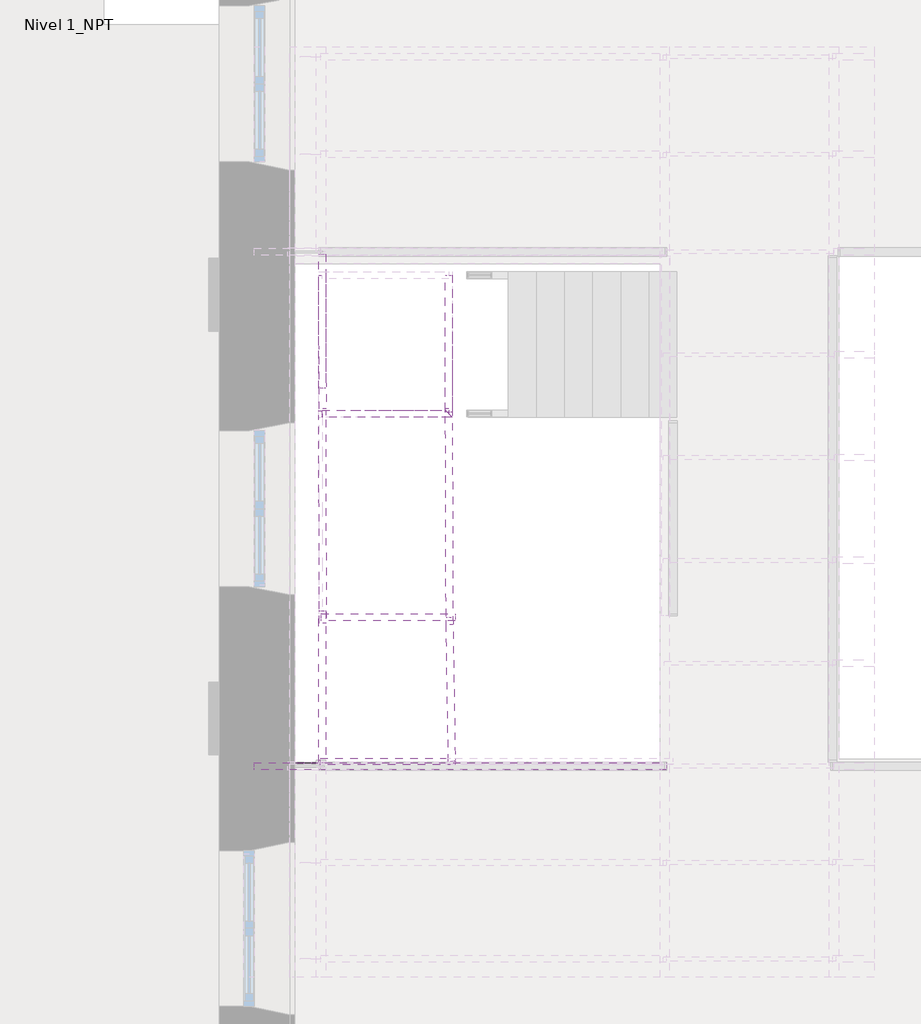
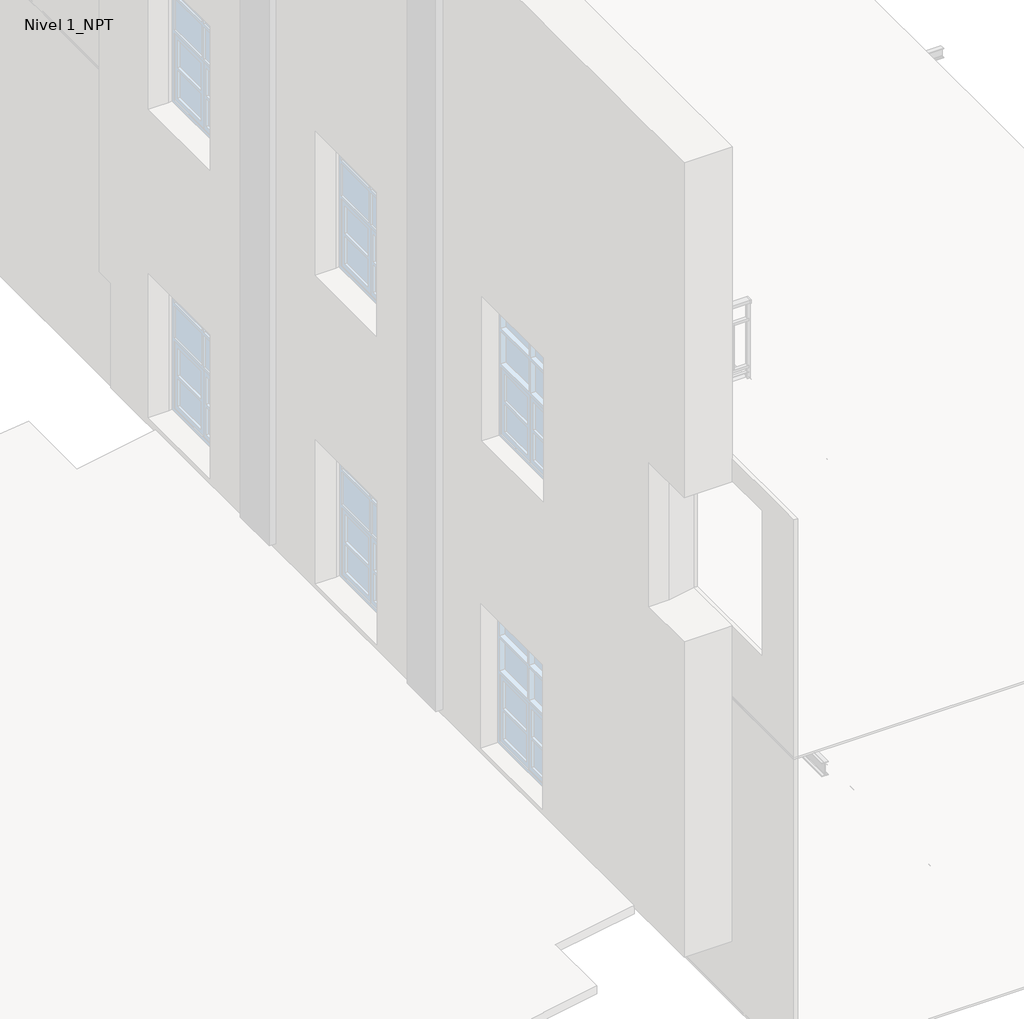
# One storey, part 2 of 6: 14 beams.
"""IFC4 building model written with IfcOpenShell, lengths in millimetres."""

from ifc_helpers import new_model, si_unit, point, frame, frame_2d, origin, place, context, project, spatial, polyline, circle_curve, ellipse_curve, trimmed, segment, composite_curve, outline, extrude, transform, mapped, element, save
from ifc_brep_helpers import plane_surface, cylinder_surface, revolved_surface, advanced_brep
from components import ipn_140_bcc21dc4, ipn_140_844413e8, ipn_140_f65621e1

model = new_model("IFC4")

# Units and contexts
model_context = context("Model", 3, world=origin())
ifc_project = project(units=[si_unit("LENGTHUNIT", "METRE", prefix="MILLI")], contexts=[model_context])

# Site, building, storey
site = spatial("IfcSite", under=ifc_project)
building = spatial("IfcBuilding", under=site)
storey = spatial("IfcBuildingStorey", under=building, Name="Nivel 1_NPT", Elevation=4940.0)

# Beams
placement = place(None, origin())
element("IfcBeam", 1, ObjectType="IPN - Secciones en I con alas cónicas : IPN 140", at=placement, inside=storey, context=model_context, shape_type="SweptSolid", body=[
    extrude(outline(composite_curve([segment(polyline([(7929.4125, 6380.8126262), (7929.4125, 6314.8126262), (7926.0796583, 6314.8126262)]), True, "CONTINUOUS"), segment(trimmed(circle_curve(frame_2d((7926.0796583, 6318.2126262)), 3.4), [point((7926.0796583, 6314.8126262))], [point((7922.7124964, 6317.7412235))], False, "CARTESIAN"), True, "CONTINUOUS"), segment(polyline([(7922.7124964, 6317.7412235), (7919.588859, 6340.0529189)]), True, "CONTINUOUS"), segment(trimmed(circle_curve(frame_2d((7913.9439111, 6339.2626262)), 5.7), [point((7919.588859, 6340.0529189))], [point((7913.9439111, 6344.9626262))], True, "CARTESIAN"), True, "CONTINUOUS"), segment(polyline([(7913.9439111, 6344.9626262), (7804.8810889, 6344.9626262)]), True, "CONTINUOUS"), segment(trimmed(circle_curve(frame_2d((7804.8810889, 6339.2626262)), 5.7), [point((7804.8810889, 6344.9626262))], [point((7799.236141, 6340.0529189))], True, "CARTESIAN"), True, "CONTINUOUS"), segment(polyline([(7799.236141, 6340.0529189), (7796.1125036, 6317.7412235)]), True, "CONTINUOUS"), segment(trimmed(circle_curve(frame_2d((7792.7453417, 6318.2126262)), 3.4), [point((7796.1125036, 6317.7412235))], [point((7792.7453417, 6314.8126262))], False, "CARTESIAN"), True, "CONTINUOUS"), segment(polyline([(7792.7453417, 6314.8126262), (7789.4125, 6314.8126262), (7789.4125, 6380.8126262), (7792.7453417, 6380.8126262)]), True, "CONTINUOUS"), segment(trimmed(circle_curve(frame_2d((7792.7453417, 6377.4126262)), 3.4), [point((7792.7453417, 6380.8126262))], [point((7796.1125036, 6377.8840289))], False, "CARTESIAN"), True, "CONTINUOUS"), segment(polyline([(7796.1125036, 6377.8840289), (7799.236141, 6355.5723335)]), True, "CONTINUOUS"), segment(trimmed(circle_curve(frame_2d((7804.8810889, 6356.3626262)), 5.7), [point((7799.236141, 6355.5723335))], [point((7804.8810889, 6350.6626262))], True, "CARTESIAN"), True, "CONTINUOUS"), segment(polyline([(7804.8810889, 6350.6626262), (7913.9439111, 6350.6626262)]), True, "CONTINUOUS"), segment(trimmed(circle_curve(frame_2d((7913.9439111, 6356.3626262)), 5.7), [point((7913.9439111, 6350.6626262))], [point((7919.588859, 6355.5723335))], True, "CARTESIAN"), True, "CONTINUOUS"), segment(polyline([(7919.588859, 6355.5723335), (7922.7124964, 6377.8840289)]), True, "CONTINUOUS"), segment(trimmed(circle_curve(frame_2d((7926.0796583, 6377.4126262)), 3.4), [point((7922.7124964, 6377.8840289))], [point((7926.0796583, 6380.8126262))], False, "CARTESIAN"), True, "CONTINUOUS"), segment(polyline([(7926.0796583, 6380.8126262), (7929.4125, 6380.8126262)]), True, "CONTINUOUS")], self_intersect=False)), frame((0.0, 1519.7530508, 0.0), z_axis=(0.0, 1.0, 0.0), x_axis=(0.0, 0.0, 1.0)), (0.0, 0.0, 1.0), 1458.9022465),
])
element("IfcBeam", 2, ObjectType="IPN - Secciones en I con alas cónicas : IPN 140", at=placement, inside=storey, context=model_context, shape_type="SweptSolid", body=[
    extrude(outline(composite_curve([segment(polyline([(1496.342606, 7929.4125), (1562.342606, 7929.4125), (1562.342606, 7926.0796583)]), True, "CONTINUOUS"), segment(trimmed(circle_curve(frame_2d((1558.942606, 7926.0796583)), 3.4), [point((1562.342606, 7926.0796583))], [point((1559.4140086, 7922.7124964))], False, "CARTESIAN"), True, "CONTINUOUS"), segment(polyline([(1559.4140086, 7922.7124964), (1537.1023132, 7919.588859)]), True, "CONTINUOUS"), segment(trimmed(circle_curve(frame_2d((1537.892606, 7913.9439111)), 5.7), [point((1537.1023132, 7919.588859))], [point((1532.192606, 7913.9439111))], True, "CARTESIAN"), True, "CONTINUOUS"), segment(polyline([(1532.192606, 7913.9439111), (1532.192606, 7804.8810889)]), True, "CONTINUOUS"), segment(trimmed(circle_curve(frame_2d((1537.892606, 7804.8810889)), 5.7), [point((1532.192606, 7804.8810889))], [point((1537.1023132, 7799.236141))], True, "CARTESIAN"), True, "CONTINUOUS"), segment(polyline([(1537.1023132, 7799.236141), (1559.4140086, 7796.1125036)]), True, "CONTINUOUS"), segment(trimmed(circle_curve(frame_2d((1558.942606, 7792.7453417)), 3.4), [point((1559.4140086, 7796.1125036))], [point((1562.342606, 7792.7453417))], False, "CARTESIAN"), True, "CONTINUOUS"), segment(polyline([(1562.342606, 7792.7453417), (1562.342606, 7789.4125), (1496.342606, 7789.4125), (1496.342606, 7792.7453417)]), True, "CONTINUOUS"), segment(trimmed(circle_curve(frame_2d((1499.742606, 7792.7453417)), 3.4), [point((1496.342606, 7792.7453417))], [point((1499.2712033, 7796.1125036))], False, "CARTESIAN"), True, "CONTINUOUS"), segment(polyline([(1499.2712033, 7796.1125036), (1521.5828987, 7799.236141)]), True, "CONTINUOUS"), segment(trimmed(circle_curve(frame_2d((1520.792606, 7804.8810889)), 5.7), [point((1521.5828987, 7799.236141))], [point((1526.492606, 7804.8810889))], True, "CARTESIAN"), True, "CONTINUOUS"), segment(polyline([(1526.492606, 7804.8810889), (1526.492606, 7913.9439111)]), True, "CONTINUOUS"), segment(trimmed(circle_curve(frame_2d((1520.792606, 7913.9439111)), 5.7), [point((1526.492606, 7913.9439111))], [point((1521.5828987, 7919.588859))], True, "CARTESIAN"), True, "CONTINUOUS"), segment(polyline([(1521.5828987, 7919.588859), (1499.2712033, 7922.7124964)]), True, "CONTINUOUS"), segment(trimmed(circle_curve(frame_2d((1499.742606, 7926.0796583)), 3.4), [point((1499.2712033, 7922.7124964))], [point((1496.342606, 7926.0796583))], False, "CARTESIAN"), True, "CONTINUOUS"), segment(polyline([(1496.342606, 7926.0796583), (1496.342606, 7929.4125)]), True, "CONTINUOUS")], self_intersect=False)), frame((6328.8126262, 0.0, 0.0), z_axis=(1.0, 0.0, 0.0), x_axis=(0.0, 1.0, 0.0)), (0.0, 0.0, 1.0), 1299.8627985),
])
element("IfcBeam", 3, ObjectType="IPN - Secciones en I con alas cónicas : IPN 140", at=placement, inside=storey, context=model_context, shape_type="AdvancedBrep", body=[
    advanced_brep(
    [(7533.5983807, 6211.4911558, 6599.65), (7599.5983807, 6211.4911558, 6599.65), (7599.5983807, 6211.4911558, 6596.3171583), (7596.6697834, 6211.4911558, 6592.9499964), (7574.358088, 6211.4911558, 6589.826359), (7569.4483807, 6211.4911558, 6584.1814111), (7569.4483807, 6211.4911558, 6475.1185889), (7574.358088, 6211.4911558, 6469.473641), (7596.6697834, 6211.4911558, 6466.3500036), (7599.5983807, 6211.4911558, 6462.9828417), (7599.5983807, 6211.4911558, 6459.65), (7533.5983807, 6211.4911558, 6459.65), (7533.5983807, 6211.4911558, 6462.9828417), (7536.526978, 6211.4911558, 6466.3500036), (7558.8386734, 6211.4911558, 6469.473641), (7563.7483807, 6211.4911558, 6475.1185889), (7563.7483807, 6211.4911558, 6584.1814111), (7558.8386734, 6211.4911558, 6589.826359), (7536.526978, 6211.4911558, 6592.9499964), (7533.5983807, 6211.4911558, 6596.3171583), (7533.5983807, 4910.3572273, 6596.3171583), (7533.5983807, 4910.3572273, 6599.65), (7536.526978, 4907.42863, 6592.9499964), (7558.8386734, 4885.1169346, 6589.826359), (7563.7483807, 4880.2072273, 6584.1814111), (7563.7483807, 4880.2072273, 6475.1185889), (7558.8386734, 4885.1169346, 6469.473641), (7536.526978, 4907.42863, 6466.3500036), (7533.5983807, 4910.3572273, 6462.9828417), (7533.5983807, 4910.3572273, 6459.65), (7599.5983807, 4844.3572273, 6459.65), (7599.5983807, 4844.3572273, 6462.9828417), (7596.6697834, 4847.2858246, 6466.3500036), (7574.358088, 4869.59752, 6469.473641), (7569.4483807, 4874.5072273, 6475.1185889), (7569.4483807, 4874.5072273, 6584.1814111), (7574.358088, 4869.59752, 6589.826359), (7596.6697834, 4847.2858246, 6592.9499964), (7599.5983807, 4844.3572273, 6596.3171583), (7599.5983807, 4844.3572273, 6599.65)],
    [
        (0, 1),
        (1, 2),
        (2, 3, circle_curve(frame((7596.1983807, 6211.4911558, 6596.3171583), z_axis=(0.0, 1.0, 0.0), x_axis=(-1.0, 0.0, 0.0)), 3.4)),
        (3, 4),
        (4, 5, circle_curve(frame((7575.1483807, 6211.4911558, 6584.1814111), z_axis=(0.0, -1.0, 0.0), x_axis=(-1.0, 0.0, 0.0)), 5.7)),
        (5, 6),
        (6, 7, circle_curve(frame((7575.1483807, 6211.4911558, 6475.1185889), z_axis=(0.0, -1.0, 0.0), x_axis=(-1.0, 0.0, 0.0)), 5.7)),
        (7, 8),
        (8, 9, circle_curve(frame((7596.1983807, 6211.4911558, 6462.9828417), z_axis=(0.0, 1.0, 0.0), x_axis=(-1.0, 0.0, 0.0)), 3.4)),
        (9, 10),
        (10, 11),
        (11, 12),
        (12, 13, circle_curve(frame((7536.9983807, 6211.4911558, 6462.9828417), z_axis=(0.0, 1.0, 0.0), x_axis=(-1.0, 0.0, 0.0)), 3.4)),
        (13, 14),
        (14, 15, circle_curve(frame((7558.0483807, 6211.4911558, 6475.1185889), z_axis=(0.0, -1.0, 0.0), x_axis=(-1.0, 0.0, 0.0)), 5.7)),
        (15, 16),
        (16, 17, circle_curve(frame((7558.0483807, 6211.4911558, 6584.1814111), z_axis=(0.0, -1.0, 0.0), x_axis=(-1.0, 0.0, 0.0)), 5.7)),
        (17, 18),
        (18, 19, circle_curve(frame((7536.9983807, 6211.4911558, 6596.3171583), z_axis=(0.0, 1.0, 0.0), x_axis=(-1.0, 0.0, 0.0)), 3.4)),
        (19, 0),
        (19, 20),
        (20, 21),
        (21, 0),
        (18, 22),
        (22, 20, ellipse_curve(frame((7536.9983807, 4906.9572273, 6596.3171583), z_axis=(0.7071067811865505, 0.7071067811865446, 0.0), x_axis=(-0.7071067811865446, 0.7071067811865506, 0.0)), 4.8083261, 3.4)),
        (17, 23),
        (23, 22),
        (16, 24),
        (24, 23, ellipse_curve(frame((7558.0483807, 4885.9072273, 6584.1814111), z_axis=(-0.7071067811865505, -0.7071067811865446, 0.0), x_axis=(0.7071067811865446, -0.7071067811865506, 0.0)), 8.0610173, 5.7)),
        (15, 25),
        (25, 24),
        (14, 26),
        (26, 25, ellipse_curve(frame((7558.0483807, 4885.9072273, 6475.1185889), z_axis=(-0.7071067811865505, -0.7071067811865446, 0.0), x_axis=(0.7071067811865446, -0.7071067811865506, 0.0)), 8.0610173, 5.7)),
        (13, 27),
        (27, 26),
        (12, 28),
        (28, 27, ellipse_curve(frame((7536.9983807, 4906.9572273, 6462.9828417), z_axis=(0.7071067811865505, 0.7071067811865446, 0.0), x_axis=(-0.7071067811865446, 0.7071067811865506, 0.0)), 4.8083261, 3.4)),
        (11, 29),
        (29, 28),
        (10, 30),
        (30, 29),
        (9, 31),
        (31, 30),
        (8, 32),
        (32, 31, ellipse_curve(frame((7596.1983807, 4847.7572273, 6462.9828417), z_axis=(0.7071067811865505, 0.7071067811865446, 0.0), x_axis=(-0.7071067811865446, 0.7071067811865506, 0.0)), 4.8083261, 3.4)),
        (7, 33),
        (33, 32),
        (6, 34),
        (34, 33, ellipse_curve(frame((7575.1483807, 4868.8072273, 6475.1185889), z_axis=(-0.7071067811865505, -0.7071067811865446, 0.0), x_axis=(0.7071067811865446, -0.7071067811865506, 0.0)), 8.0610173, 5.7)),
        (5, 35),
        (35, 34),
        (4, 36),
        (36, 35, ellipse_curve(frame((7575.1483807, 4868.8072273, 6584.1814111), z_axis=(-0.7071067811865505, -0.7071067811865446, 0.0), x_axis=(0.7071067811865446, -0.7071067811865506, 0.0)), 8.0610173, 5.7)),
        (3, 37),
        (37, 36),
        (2, 38),
        (38, 37, ellipse_curve(frame((7596.1983807, 4847.7572273, 6596.3171583), z_axis=(0.7071067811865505, 0.7071067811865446, 0.0), x_axis=(-0.7071067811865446, 0.7071067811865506, 0.0)), 4.8083261, 3.4)),
        (1, 39),
        (39, 38),
        (21, 39),
    ],
    [
        plane_surface(frame((7566.5983807, 6211.4911558, 6529.65), z_axis=(0.0, 1.0, 0.0), x_axis=(0.0, 0.0, 1.0))),
        plane_surface(frame((7533.5983807, 6211.4911558, 6599.65), z_axis=(-1.0, 0.0, 0.0), x_axis=(0.0, -1.0, 0.0))),
        cylinder_surface(frame((7536.9983807, 6211.4911558, 6596.3171583), z_axis=(0.0, 1.0, 0.0), x_axis=(-1.0, 0.0, 0.0)), 3.4),
        plane_surface(frame((7550.0983807, 6211.4911558, 6591.05), z_axis=(-0.13864784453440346, 0.0, -0.9903417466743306), x_axis=(0.0, -1.0, 0.0))),
        revolved_surface(polyline([(7552.3483807, 4880.2072273, 6584.1814111), (7552.3483807, 6211.4911558, 6584.1814111)]), (7558.0483807, 6211.4911558, 6584.1814111), (0.0, -1.0, 0.0)),
        plane_surface(frame((7563.7483807, 6211.4911558, 6584.1814111), z_axis=(-1.0, 0.0, 0.0), x_axis=(0.0, -1.0, 0.0))),
        revolved_surface(polyline([(7552.3483807, 4880.2072273, 6475.1185889), (7552.3483807, 6211.4911558, 6475.1185889)]), (7558.0483807, 6211.4911558, 6475.1185889), (0.0, -1.0, 0.0)),
        plane_surface(frame((7550.0983807, 6211.4911558, 6468.25), z_axis=(-0.1386478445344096, 0.0, 0.9903417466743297), x_axis=(0.0, -1.0, 0.0))),
        cylinder_surface(frame((7536.9983807, 6211.4911558, 6462.9828417), z_axis=(0.0, 1.0, 0.0), x_axis=(-1.0, 0.0, 0.0)), 3.4),
        plane_surface(frame((7533.5983807, 6211.4911558, 6462.9828417), z_axis=(-1.0, 0.0, 0.0), x_axis=(0.0, -1.0, 0.0))),
        plane_surface(frame((7533.5983807, 6211.4911558, 6459.65), z_axis=(0.0, 0.0, -1.0), x_axis=(0.0, -1.0, 0.0))),
        plane_surface(frame((7599.5983807, 6211.4911558, 6459.65), z_axis=(1.0, 0.0, 0.0), x_axis=(0.0, -1.0, 0.0))),
        cylinder_surface(frame((7596.1983807, 6211.4911558, 6462.9828417), z_axis=(0.0, 1.0, 0.0), x_axis=(-1.0, 0.0, 0.0)), 3.4),
        plane_surface(frame((7583.0983807, 6211.4911558, 6468.25), z_axis=(0.13864784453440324, 0.0, 0.9903417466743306), x_axis=(0.0, -1.0, 0.0))),
        revolved_surface(polyline([(7569.448380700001, 4863.107227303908, 6475.1185889), (7569.448380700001, 6211.4911558, 6475.1185889)]), (7575.1483807, 6211.4911558, 6475.1185889), (0.0, -1.0, 0.0)),
        plane_surface(frame((7569.4483807, 6211.4911558, 6475.1185889), z_axis=(1.0, 0.0, 0.0), x_axis=(0.0, -1.0, 0.0))),
        revolved_surface(polyline([(7569.448380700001, 4863.107227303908, 6584.1814111), (7569.448380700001, 6211.4911558, 6584.1814111)]), (7575.1483807, 6211.4911558, 6584.1814111), (0.0, -1.0, 0.0)),
        plane_surface(frame((7583.0983807, 6211.4911558, 6591.05), z_axis=(0.1386478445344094, 0.0, -0.9903417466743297), x_axis=(0.0, -1.0, 0.0))),
        cylinder_surface(frame((7596.1983807, 6211.4911558, 6596.3171583), z_axis=(0.0, 1.0, 0.0), x_axis=(-1.0, 0.0, 0.0)), 3.4),
        plane_surface(frame((7599.5983807, 6211.4911558, 6596.3171583), z_axis=(1.0, 0.0, 0.0), x_axis=(0.0, -1.0, 0.0))),
        plane_surface(frame((7599.5983807, 6211.4911558, 6599.65), z_axis=(0.0, 0.0, 1.0), x_axis=(0.0, -1.0, 0.0))),
        plane_surface(frame((7533.5983807, 4910.3572273, 6599.65), z_axis=(-0.7071067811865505, -0.7071067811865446, 0.0), x_axis=(0.7071067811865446, -0.7071067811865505, 0.0))),
    ],
    [
        (0, [[1, 2, 3, 4, 5, 6, 7, 8, 9, 10, 11, 12, 13, 14, 15, 16, 17, 18, 19, 20]]),
        (1, [[21, 22, 23, -20]]),
        (2, [[24, 25, -21, -19]]),
        (3, [[-18, 26, 27, -24]]),
        (4, [[28, 29, -26, -17]]),
        (5, [[30, 31, -28, -16]]),
        (6, [[32, 33, -30, -15]]),
        (7, [[-14, 34, 35, -32]]),
        (8, [[36, 37, -34, -13]]),
        (9, [[38, 39, -36, -12]]),
        (10, [[40, 41, -38, -11]]),
        (11, [[42, 43, -40, -10]]),
        (12, [[44, 45, -42, -9]]),
        (13, [[-8, 46, 47, -44]]),
        (14, [[48, 49, -46, -7]]),
        (15, [[50, 51, -48, -6]]),
        (16, [[52, 53, -50, -5]]),
        (17, [[-4, 54, 55, -52]]),
        (18, [[56, 57, -54, -3]]),
        (19, [[58, 59, -56, -2]]),
        (20, [[-23, 60, -58, -1]]),
        (21, [[-22, -25, -27, -29, -31, -33, -35, -37, -39, -41, -43, -45, -47, -49, -51, -53, -55, -57, -59, -60]]),
    ],
),
])
element("IfcBeam", 4, ObjectType="IPN - Secciones en I con alas cónicas : IPN 140", at=placement, inside=storey, context=model_context, shape_type="SweptSolid", body=[
    extrude(outline(composite_curve([segment(polyline([(6403.1623068, 7599.5983807), (6403.1623068, 7533.5983807), (6399.8294651, 7533.5983807)]), True, "CONTINUOUS"), segment(trimmed(circle_curve(frame_2d((6399.8294651, 7536.9983807)), 3.4), [point((6399.8294651, 7533.5983807))], [point((6396.4623032, 7536.526978))], False, "CARTESIAN"), True, "CONTINUOUS"), segment(polyline([(6396.4623032, 7536.526978), (6393.3386659, 7558.8386734)]), True, "CONTINUOUS"), segment(trimmed(circle_curve(frame_2d((6387.6937179, 7558.0483807)), 5.7), [point((6393.3386659, 7558.8386734))], [point((6387.6937179, 7563.7483807))], True, "CARTESIAN"), True, "CONTINUOUS"), segment(polyline([(6387.6937179, 7563.7483807), (6278.6308958, 7563.7483807)]), True, "CONTINUOUS"), segment(trimmed(circle_curve(frame_2d((6278.6308958, 7558.0483807)), 5.7), [point((6278.6308958, 7563.7483807))], [point((6272.9859478, 7558.8386734))], True, "CARTESIAN"), True, "CONTINUOUS"), segment(polyline([(6272.9859478, 7558.8386734), (6269.8623105, 7536.526978)]), True, "CONTINUOUS"), segment(trimmed(circle_curve(frame_2d((6266.4951485, 7536.9983807)), 3.4), [point((6269.8623105, 7536.526978))], [point((6266.4951485, 7533.5983807))], False, "CARTESIAN"), True, "CONTINUOUS"), segment(polyline([(6266.4951485, 7533.5983807), (6263.1623068, 7533.5983807), (6263.1623068, 7599.5983807), (6266.4951485, 7599.5983807)]), True, "CONTINUOUS"), segment(trimmed(circle_curve(frame_2d((6266.4951485, 7596.1983807)), 3.4), [point((6266.4951485, 7599.5983807))], [point((6269.8623105, 7596.6697834))], False, "CARTESIAN"), True, "CONTINUOUS"), segment(polyline([(6269.8623105, 7596.6697834), (6272.9859478, 7574.358088)]), True, "CONTINUOUS"), segment(trimmed(circle_curve(frame_2d((6278.6308958, 7575.1483807)), 5.7), [point((6272.9859478, 7574.358088))], [point((6278.6308958, 7569.4483807))], True, "CARTESIAN"), True, "CONTINUOUS"), segment(polyline([(6278.6308958, 7569.4483807), (6387.6937179, 7569.4483807)]), True, "CONTINUOUS"), segment(trimmed(circle_curve(frame_2d((6387.6937179, 7575.1483807)), 5.7), [point((6387.6937179, 7569.4483807))], [point((6393.3386659, 7574.358088))], True, "CARTESIAN"), True, "CONTINUOUS"), segment(polyline([(6393.3386659, 7574.358088), (6396.4623032, 7596.6697834)]), True, "CONTINUOUS"), segment(trimmed(circle_curve(frame_2d((6399.8294651, 7596.1983807)), 3.4), [point((6396.4623032, 7596.6697834))], [point((6399.8294651, 7599.5983807))], False, "CARTESIAN"), True, "CONTINUOUS"), segment(polyline([(6399.8294651, 7599.5983807), (6403.1623068, 7599.5983807)]), True, "CONTINUOUS")], self_intersect=False)), frame((0.0, 4893.4633684, 0.0), z_axis=(0.0, 1.0, 0.0), x_axis=(0.0, 0.0, 1.0)), (0.0, 0.0, 1.0), 1318.0),
])
element("IfcBeam", 5, ObjectType="IPN - Secciones en I con alas cónicas : IPN 140", at=placement, inside=storey, context=model_context, shape_type="AdvancedBrep", body=[
    advanced_brep(
    [(6345.3555034, 4844.3572273, 6599.65), (6345.3555034, 4910.3572273, 6599.65), (6345.3555034, 4910.3572273, 6596.3171583), (6345.3555034, 4907.42863, 6592.9499964), (6345.3555034, 4885.1169346, 6589.826359), (6345.3555034, 4880.2072273, 6584.1814111), (6345.3555034, 4880.2072273, 6475.1185889), (6345.3555034, 4885.1169346, 6469.473641), (6345.3555034, 4907.42863, 6466.3500036), (6345.3555034, 4910.3572273, 6462.9828417), (6345.3555034, 4910.3572273, 6459.65), (6345.3555034, 4844.3572273, 6459.65), (6345.3555034, 4844.3572273, 6462.9828417), (6345.3555034, 4847.2858246, 6466.3500036), (6345.3555034, 4869.59752, 6469.473641), (6345.3555034, 4874.5072273, 6475.1185889), (6345.3555034, 4874.5072273, 6584.1814111), (6345.3555034, 4869.59752, 6589.826359), (6345.3555034, 4847.2858246, 6592.9499964), (6345.3555034, 4844.3572273, 6596.3171583), (7599.5983807, 4844.3572273, 6596.3171583), (7599.5983807, 4844.3572273, 6599.65), (7596.6697834, 4847.2858246, 6592.9499964), (7574.358088, 4869.59752, 6589.826359), (7569.4483807, 4874.5072273, 6584.1814111), (7569.4483807, 4874.5072273, 6475.1185889), (7574.358088, 4869.59752, 6469.473641), (7596.6697834, 4847.2858246, 6466.3500036), (7599.5983807, 4844.3572273, 6462.9828417), (7599.5983807, 4844.3572273, 6459.65), (7533.5983807, 4910.3572273, 6459.65), (7533.5983807, 4910.3572273, 6462.9828417), (7536.526978, 4907.42863, 6466.3500036), (7558.8386734, 4885.1169346, 6469.473641), (7563.7483807, 4880.2072273, 6475.1185889), (7563.7483807, 4880.2072273, 6584.1814111), (7558.8386734, 4885.1169346, 6589.826359), (7536.526978, 4907.42863, 6592.9499964), (7533.5983807, 4910.3572273, 6596.3171583), (7533.5983807, 4910.3572273, 6599.65)],
    [
        (0, 1),
        (1, 2),
        (2, 3, circle_curve(frame((6345.3555034, 4906.9572273, 6596.3171583), z_axis=(-1.0, 0.0, 0.0), x_axis=(0.0, -1.0, 0.0)), 3.4)),
        (3, 4),
        (4, 5, circle_curve(frame((6345.3555034, 4885.9072273, 6584.1814111), z_axis=(1.0, 0.0, 0.0), x_axis=(0.0, -1.0, 0.0)), 5.7)),
        (5, 6),
        (6, 7, circle_curve(frame((6345.3555034, 4885.9072273, 6475.1185889), z_axis=(1.0, 0.0, 0.0), x_axis=(0.0, -1.0, 0.0)), 5.7)),
        (7, 8),
        (8, 9, circle_curve(frame((6345.3555034, 4906.9572273, 6462.9828417), z_axis=(-1.0, 0.0, 0.0), x_axis=(0.0, -1.0, 0.0)), 3.4)),
        (9, 10),
        (10, 11),
        (11, 12),
        (12, 13, circle_curve(frame((6345.3555034, 4847.7572273, 6462.9828417), z_axis=(-1.0, 0.0, 0.0), x_axis=(0.0, -1.0, 0.0)), 3.4)),
        (13, 14),
        (14, 15, circle_curve(frame((6345.3555034, 4868.8072273, 6475.1185889), z_axis=(1.0, 0.0, 0.0), x_axis=(0.0, -1.0, 0.0)), 5.7)),
        (15, 16),
        (16, 17, circle_curve(frame((6345.3555034, 4868.8072273, 6584.1814111), z_axis=(1.0, 0.0, 0.0), x_axis=(0.0, -1.0, 0.0)), 5.7)),
        (17, 18),
        (18, 19, circle_curve(frame((6345.3555034, 4847.7572273, 6596.3171583), z_axis=(-1.0, 0.0, 0.0), x_axis=(0.0, -1.0, 0.0)), 3.4)),
        (19, 0),
        (19, 20),
        (20, 21),
        (21, 0),
        (18, 22),
        (22, 20, ellipse_curve(frame((7596.1983807, 4847.7572273, 6596.3171583), z_axis=(-0.7071067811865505, -0.7071067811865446, 0.0), x_axis=(-0.7071067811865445, 0.7071067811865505, 0.0)), 4.8083261, 3.4)),
        (17, 23),
        (23, 22),
        (16, 24),
        (24, 23, ellipse_curve(frame((7575.1483807, 4868.8072273, 6584.1814111), z_axis=(0.7071067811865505, 0.7071067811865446, 0.0), x_axis=(0.7071067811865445, -0.7071067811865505, 0.0)), 8.0610173, 5.7)),
        (15, 25),
        (25, 24),
        (14, 26),
        (26, 25, ellipse_curve(frame((7575.1483807, 4868.8072273, 6475.1185889), z_axis=(0.7071067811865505, 0.7071067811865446, 0.0), x_axis=(0.7071067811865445, -0.7071067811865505, 0.0)), 8.0610173, 5.7)),
        (13, 27),
        (27, 26),
        (12, 28),
        (28, 27, ellipse_curve(frame((7596.1983807, 4847.7572273, 6462.9828417), z_axis=(-0.7071067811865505, -0.7071067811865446, 0.0), x_axis=(-0.7071067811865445, 0.7071067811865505, 0.0)), 4.8083261, 3.4)),
        (11, 29),
        (29, 28),
        (10, 30),
        (30, 29),
        (9, 31),
        (31, 30),
        (8, 32),
        (32, 31, ellipse_curve(frame((7536.9983807, 4906.9572273, 6462.9828417), z_axis=(-0.7071067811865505, -0.7071067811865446, 0.0), x_axis=(-0.7071067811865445, 0.7071067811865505, 0.0)), 4.8083261, 3.4)),
        (7, 33),
        (33, 32),
        (6, 34),
        (34, 33, ellipse_curve(frame((7558.0483807, 4885.9072273, 6475.1185889), z_axis=(0.7071067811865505, 0.7071067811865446, 0.0), x_axis=(0.7071067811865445, -0.7071067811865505, 0.0)), 8.0610173, 5.7)),
        (5, 35),
        (35, 34),
        (4, 36),
        (36, 35, ellipse_curve(frame((7558.0483807, 4885.9072273, 6584.1814111), z_axis=(0.7071067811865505, 0.7071067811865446, 0.0), x_axis=(0.7071067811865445, -0.7071067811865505, 0.0)), 8.0610173, 5.7)),
        (3, 37),
        (37, 36),
        (2, 38),
        (38, 37, ellipse_curve(frame((7536.9983807, 4906.9572273, 6596.3171583), z_axis=(-0.7071067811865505, -0.7071067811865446, 0.0), x_axis=(-0.7071067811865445, 0.7071067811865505, 0.0)), 4.8083261, 3.4)),
        (1, 39),
        (39, 38),
        (21, 39),
    ],
    [
        plane_surface(frame((6345.3555034, 4877.3572273, 6529.65), z_axis=(-1.0, 0.0, 0.0), x_axis=(0.0, 0.0, 1.0))),
        plane_surface(frame((6345.3555034, 4844.3572273, 6599.65), z_axis=(0.0, -1.0, 0.0), x_axis=(1.0, 0.0, 0.0))),
        cylinder_surface(frame((6345.3555034, 4847.7572273, 6596.3171583), z_axis=(-1.0, 0.0, 0.0), x_axis=(0.0, -1.0, 0.0)), 3.4),
        plane_surface(frame((6345.3555034, 4860.8572273, 6591.05), z_axis=(0.0, -0.13864784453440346, -0.9903417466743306), x_axis=(1.0, 0.0, 0.0))),
        revolved_surface(polyline([(7580.848380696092, 4863.1072273, 6584.1814111), (6345.3555034, 4863.1072273, 6584.1814111)]), (6345.3555034, 4868.8072273, 6584.1814111), (1.0, 0.0, 0.0)),
        plane_surface(frame((6345.3555034, 4874.5072273, 6584.1814111), z_axis=(0.0, -1.0, 0.0), x_axis=(1.0, 0.0, 0.0))),
        revolved_surface(polyline([(7580.848380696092, 4863.1072273, 6475.1185889), (6345.3555034, 4863.1072273, 6475.1185889)]), (6345.3555034, 4868.8072273, 6475.1185889), (1.0, 0.0, 0.0)),
        plane_surface(frame((6345.3555034, 4860.8572273, 6468.25), z_axis=(0.0, -0.1386478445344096, 0.9903417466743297), x_axis=(1.0, 0.0, 0.0))),
        cylinder_surface(frame((6345.3555034, 4847.7572273, 6462.9828417), z_axis=(-1.0, 0.0, 0.0), x_axis=(0.0, -1.0, 0.0)), 3.4),
        plane_surface(frame((6345.3555034, 4844.3572273, 6462.9828417), z_axis=(0.0, -1.0, 0.0), x_axis=(1.0, 0.0, 0.0))),
        plane_surface(frame((6345.3555034, 4844.3572273, 6459.65), z_axis=(0.0, 0.0, -1.0), x_axis=(1.0, 0.0, 0.0))),
        plane_surface(frame((6345.3555034, 4910.3572273, 6459.65), z_axis=(0.0, 1.0, 0.0), x_axis=(1.0, 0.0, 0.0))),
        cylinder_surface(frame((6345.3555034, 4906.9572273, 6462.9828417), z_axis=(-1.0, 0.0, 0.0), x_axis=(0.0, -1.0, 0.0)), 3.4),
        plane_surface(frame((6345.3555034, 4893.8572273, 6468.25), z_axis=(0.0, 0.13864784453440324, 0.9903417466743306), x_axis=(1.0, 0.0, 0.0))),
        revolved_surface(polyline([(7563.7483807, 4880.2072273, 6475.1185889), (6345.3555034, 4880.2072273, 6475.1185889)]), (6345.3555034, 4885.9072273, 6475.1185889), (1.0, 0.0, 0.0)),
        plane_surface(frame((6345.3555034, 4880.2072273, 6475.1185889), z_axis=(0.0, 1.0, 0.0), x_axis=(1.0, 0.0, 0.0))),
        revolved_surface(polyline([(7563.7483807, 4880.2072273, 6584.1814111), (6345.3555034, 4880.2072273, 6584.1814111)]), (6345.3555034, 4885.9072273, 6584.1814111), (1.0, 0.0, 0.0)),
        plane_surface(frame((6345.3555034, 4893.8572273, 6591.05), z_axis=(0.0, 0.1386478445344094, -0.9903417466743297), x_axis=(1.0, 0.0, 0.0))),
        cylinder_surface(frame((6345.3555034, 4906.9572273, 6596.3171583), z_axis=(-1.0, 0.0, 0.0), x_axis=(0.0, -1.0, 0.0)), 3.4),
        plane_surface(frame((6345.3555034, 4910.3572273, 6596.3171583), z_axis=(0.0, 1.0, 0.0), x_axis=(1.0, 0.0, 0.0))),
        plane_surface(frame((6345.3555034, 4910.3572273, 6599.65), z_axis=(0.0, 0.0, 1.0), x_axis=(1.0, 0.0, 0.0))),
        plane_surface(frame((7533.5983807, 4910.3572273, 6599.65), z_axis=(0.7071067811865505, 0.7071067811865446, 0.0), x_axis=(0.7071067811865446, -0.7071067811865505, 0.0))),
    ],
    [
        (0, [[1, 2, 3, 4, 5, 6, 7, 8, 9, 10, 11, 12, 13, 14, 15, 16, 17, 18, 19, 20]]),
        (1, [[21, 22, 23, -20]]),
        (2, [[24, 25, -21, -19]]),
        (3, [[-18, 26, 27, -24]]),
        (4, [[28, 29, -26, -17]]),
        (5, [[30, 31, -28, -16]]),
        (6, [[32, 33, -30, -15]]),
        (7, [[-14, 34, 35, -32]]),
        (8, [[36, 37, -34, -13]]),
        (9, [[38, 39, -36, -12]]),
        (10, [[40, 41, -38, -11]]),
        (11, [[42, 43, -40, -10]]),
        (12, [[44, 45, -42, -9]]),
        (13, [[-8, 46, 47, -44]]),
        (14, [[48, 49, -46, -7]]),
        (15, [[50, 51, -48, -6]]),
        (16, [[52, 53, -50, -5]]),
        (17, [[-4, 54, 55, -52]]),
        (18, [[56, 57, -54, -3]]),
        (19, [[58, 59, -56, -2]]),
        (20, [[-23, 60, -58, -1]]),
        (21, [[-22, -25, -27, -29, -31, -33, -35, -37, -39, -41, -43, -45, -47, -49, -51, -53, -55, -57, -59, -60]]),
    ],
),
])
element("IfcBeam", 6, ObjectType="IPN - Secciones en I con alas cónicas : IPN 140", at=placement, inside=storey, context=model_context, shape_type="SweptSolid", body=[
    extrude(outline(composite_curve([segment(polyline([(70.0, 33.0), (70.0, -33.0), (66.6671583, -33.0)]), True, "CONTINUOUS"), segment(trimmed(circle_curve(frame_2d((66.6671583, -29.6)), 3.4), [point((66.6671583, -33.0))], [point((63.2999964, -30.0714027))], False, "CARTESIAN"), True, "CONTINUOUS"), segment(polyline([(63.2999964, -30.0714027), (60.176359, -7.7597073)]), True, "CONTINUOUS"), segment(trimmed(circle_curve(frame_2d((54.5314111, -8.55)), 5.7), [point((60.176359, -7.7597073))], [point((54.5314111, -2.85))], True, "CARTESIAN"), True, "CONTINUOUS"), segment(polyline([(54.5314111, -2.85), (-54.5314111, -2.85)]), True, "CONTINUOUS"), segment(trimmed(circle_curve(frame_2d((-54.5314111, -8.55)), 5.7), [point((-54.5314111, -2.85))], [point((-60.176359, -7.7597073))], True, "CARTESIAN"), True, "CONTINUOUS"), segment(polyline([(-60.176359, -7.7597073), (-63.2999964, -30.0714027)]), True, "CONTINUOUS"), segment(trimmed(circle_curve(frame_2d((-66.6671583, -29.6)), 3.4), [point((-63.2999964, -30.0714027))], [point((-66.6671583, -33.0))], False, "CARTESIAN"), True, "CONTINUOUS"), segment(polyline([(-66.6671583, -33.0), (-70.0, -33.0), (-70.0, 33.0), (-66.6671583, 33.0)]), True, "CONTINUOUS"), segment(trimmed(circle_curve(frame_2d((-66.6671583, 29.6)), 3.4), [point((-66.6671583, 33.0))], [point((-63.2999964, 30.0714026))], False, "CARTESIAN"), True, "CONTINUOUS"), segment(polyline([(-63.2999964, 30.0714026), (-60.176359, 7.7597072)]), True, "CONTINUOUS"), segment(trimmed(circle_curve(frame_2d((-54.5314111, 8.55)), 5.7), [point((-60.176359, 7.7597072))], [point((-54.5314111, 2.85))], True, "CARTESIAN"), True, "CONTINUOUS"), segment(polyline([(-54.5314111, 2.85), (54.5314111, 2.85)]), True, "CONTINUOUS"), segment(trimmed(circle_curve(frame_2d((54.5314111, 8.55)), 5.7), [point((54.5314111, 2.85))], [point((60.176359, 7.7597072))], True, "CARTESIAN"), True, "CONTINUOUS"), segment(polyline([(60.176359, 7.7597072), (63.2999964, 30.0714026)]), True, "CONTINUOUS"), segment(trimmed(circle_curve(frame_2d((66.6671583, 29.6)), 3.4), [point((63.2999964, 30.0714026))], [point((66.6671583, 33.0))], False, "CARTESIAN"), True, "CONTINUOUS"), segment(polyline([(66.6671583, 33.0), (70.0, 33.0)]), True, "CONTINUOUS")], self_intersect=False)), frame((6351.4189386, 4877.6072273, 6333.0067977), z_axis=(0.9999995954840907, 0.0, 0.0008994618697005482), x_axis=(-0.0008994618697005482, 0.0, 0.9999995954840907)), (0.0, 0.0, 1.0), 1214.9672936),
])
element("IfcBeam", 7, ObjectType="IPN - Secciones en I con alas cónicas : IPN 140", at=placement, inside=storey, context=model_context, shape_type="SweptSolid", body=[
    extrude(outline(composite_curve([segment(polyline([(2885.7500845, 7929.4125), (2951.7500845, 7929.4125), (2951.7500845, 7926.0796583)]), True, "CONTINUOUS"), segment(trimmed(circle_curve(frame_2d((2948.3500845, 7926.0796583)), 3.4), [point((2951.7500845, 7926.0796583))], [point((2948.8214872, 7922.7124964))], False, "CARTESIAN"), True, "CONTINUOUS"), segment(polyline([(2948.8214872, 7922.7124964), (2926.5097918, 7919.588859)]), True, "CONTINUOUS"), segment(trimmed(circle_curve(frame_2d((2927.3000845, 7913.9439111)), 5.7), [point((2926.5097918, 7919.588859))], [point((2921.6000845, 7913.9439111))], True, "CARTESIAN"), True, "CONTINUOUS"), segment(polyline([(2921.6000845, 7913.9439111), (2921.6000845, 7804.8810889)]), True, "CONTINUOUS"), segment(trimmed(circle_curve(frame_2d((2927.3000845, 7804.8810889)), 5.7), [point((2921.6000845, 7804.8810889))], [point((2926.5097918, 7799.236141))], True, "CARTESIAN"), True, "CONTINUOUS"), segment(polyline([(2926.5097918, 7799.236141), (2948.8214872, 7796.1125036)]), True, "CONTINUOUS"), segment(trimmed(circle_curve(frame_2d((2948.3500845, 7792.7453417)), 3.4), [point((2948.8214872, 7796.1125036))], [point((2951.7500845, 7792.7453417))], False, "CARTESIAN"), True, "CONTINUOUS"), segment(polyline([(2951.7500845, 7792.7453417), (2951.7500845, 7789.4125), (2885.7500845, 7789.4125), (2885.7500845, 7792.7453417)]), True, "CONTINUOUS"), segment(trimmed(circle_curve(frame_2d((2889.1500845, 7792.7453417)), 3.4), [point((2885.7500845, 7792.7453417))], [point((2888.6786818, 7796.1125036))], False, "CARTESIAN"), True, "CONTINUOUS"), segment(polyline([(2888.6786818, 7796.1125036), (2910.9903772, 7799.236141)]), True, "CONTINUOUS"), segment(trimmed(circle_curve(frame_2d((2910.2000845, 7804.8810889)), 5.7), [point((2910.9903772, 7799.236141))], [point((2915.9000845, 7804.8810889))], True, "CARTESIAN"), True, "CONTINUOUS"), segment(polyline([(2915.9000845, 7804.8810889), (2915.9000845, 7913.9439111)]), True, "CONTINUOUS"), segment(trimmed(circle_curve(frame_2d((2910.2000845, 7913.9439111)), 5.7), [point((2915.9000845, 7913.9439111))], [point((2910.9903772, 7919.588859))], True, "CARTESIAN"), True, "CONTINUOUS"), segment(polyline([(2910.9903772, 7919.588859), (2888.6786818, 7922.7124964)]), True, "CONTINUOUS"), segment(trimmed(circle_curve(frame_2d((2889.1500845, 7926.0796583)), 3.4), [point((2888.6786818, 7922.7124964))], [point((2885.7500845, 7926.0796583))], False, "CARTESIAN"), True, "CONTINUOUS"), segment(polyline([(2885.7500845, 7926.0796583), (2885.7500845, 7929.4125)]), True, "CONTINUOUS")], self_intersect=False)), frame((6336.1984951, 0.0, 0.0), z_axis=(1.0, 0.0, 0.0), x_axis=(0.0, 1.0, 0.0)), (0.0, 0.0, 1.0), 1292.0),
])
element("IfcBeam", 8, ObjectType="IPN - Secciones en I con alas cónicas : IPN 140", at=placement, inside=storey, context=model_context, shape_type="SweptSolid", body=[
    extrude(outline(composite_curve([segment(polyline([(70.0, 32.9999999), (70.0, -33.0), (66.6671583, -33.0)]), True, "CONTINUOUS"), segment(trimmed(circle_curve(frame_2d((66.6671583, -29.6)), 3.4), [point((66.6671583, -33.0))], [point((63.2999964, -30.0714027))], False, "CARTESIAN"), True, "CONTINUOUS"), segment(polyline([(63.2999964, -30.0714027), (60.176359, -7.7597073)]), True, "CONTINUOUS"), segment(trimmed(circle_curve(frame_2d((54.5314111, -8.5500001)), 5.7), [point((60.176359, -7.7597073))], [point((54.5314111, -2.8500001))], True, "CARTESIAN"), True, "CONTINUOUS"), segment(polyline([(54.5314111, -2.8500001), (-54.5314111, -2.8500001)]), True, "CONTINUOUS"), segment(trimmed(circle_curve(frame_2d((-54.5314111, -8.5500001)), 5.7), [point((-54.5314111, -2.8500001))], [point((-60.176359, -7.7597073))], True, "CARTESIAN"), True, "CONTINUOUS"), segment(polyline([(-60.176359, -7.7597073), (-63.2999964, -30.0714027)]), True, "CONTINUOUS"), segment(trimmed(circle_curve(frame_2d((-66.6671583, -29.6)), 3.4), [point((-63.2999964, -30.0714027))], [point((-66.6671583, -33.0))], False, "CARTESIAN"), True, "CONTINUOUS"), segment(polyline([(-66.6671583, -33.0), (-70.0, -33.0), (-70.0, 32.9999999), (-66.6671583, 32.9999999)]), True, "CONTINUOUS"), segment(trimmed(circle_curve(frame_2d((-66.6671583, 29.6)), 3.4), [point((-66.6671583, 32.9999999))], [point((-63.2999964, 30.0714026))], False, "CARTESIAN"), True, "CONTINUOUS"), segment(polyline([(-63.2999964, 30.0714026), (-60.176359, 7.7597072)]), True, "CONTINUOUS"), segment(trimmed(circle_curve(frame_2d((-54.5314111, 8.55)), 5.7), [point((-60.176359, 7.7597072))], [point((-54.5314111, 2.85))], True, "CARTESIAN"), True, "CONTINUOUS"), segment(polyline([(-54.5314111, 2.85), (54.5314111, 2.85)]), True, "CONTINUOUS"), segment(trimmed(circle_curve(frame_2d((54.5314111, 8.55)), 5.7), [point((54.5314111, 2.85))], [point((60.176359, 7.7597072))], True, "CARTESIAN"), True, "CONTINUOUS"), segment(polyline([(60.176359, 7.7597072), (63.2999964, 30.0714026)]), True, "CONTINUOUS"), segment(trimmed(circle_curve(frame_2d((66.6671583, 29.6)), 3.4), [point((63.2999964, 30.0714026))], [point((66.6671583, 32.9999999))], False, "CARTESIAN"), True, "CONTINUOUS"), segment(polyline([(66.6671583, 32.9999999), (70.0, 32.9999999)]), True, "CONTINUOUS")], self_intersect=False)), frame((7594.8062668, 1529.7401105, 7859.4125), z_axis=(-0.015996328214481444, 0.9998720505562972, 0.0), x_axis=(0.0, 0.0, 1.0)), (0.0, 0.0, 1.0), 1388.8380443),
])
element("IfcBeam", 9, ObjectType="IPN - Secciones en I con alas cónicas : IPN 140", at=placement, inside=storey, context=model_context, shape_type="SweptSolid", body=[
    extrude(outline(composite_curve([segment(polyline([(70.0000001, -33.0), (66.6671584, -33.0)]), True, "CONTINUOUS"), segment(trimmed(circle_curve(frame_2d((66.6671584, -29.6)), 3.4), [point((66.6671584, -33.0))], [point((63.2999964, -30.0714027))], False, "CARTESIAN"), True, "CONTINUOUS"), segment(polyline([(63.2999964, -30.0714027), (60.1763591, -7.7597073)]), True, "CONTINUOUS"), segment(trimmed(circle_curve(frame_2d((54.5314111, -8.55)), 5.7), [point((60.1763591, -7.7597073))], [point((54.5314111, -2.85))], True, "CARTESIAN"), True, "CONTINUOUS"), segment(polyline([(54.5314111, -2.85), (-54.531411, -2.85)]), True, "CONTINUOUS"), segment(trimmed(circle_curve(frame_2d((-54.531411, -8.55)), 5.7), [point((-54.531411, -2.85))], [point((-60.1763589, -7.7597073))], True, "CARTESIAN"), True, "CONTINUOUS"), segment(polyline([(-60.1763589, -7.7597073), (-63.2999964, -30.0714027)]), True, "CONTINUOUS"), segment(trimmed(circle_curve(frame_2d((-66.6671583, -29.5999999)), 3.4), [point((-63.2999964, -30.0714027))], [point((-66.6671583, -33.0))], False, "CARTESIAN"), True, "CONTINUOUS"), segment(polyline([(-66.6671583, -33.0), (-70.0, -33.0), (-70.0, 33.0), (-66.6671583, 33.0)]), True, "CONTINUOUS"), segment(trimmed(circle_curve(frame_2d((-66.6671583, 29.6)), 3.4), [point((-66.6671583, 33.0))], [point((-63.2999963, 30.0714027))], False, "CARTESIAN"), True, "CONTINUOUS"), segment(polyline([(-63.2999963, 30.0714027), (-60.1763589, 7.7597073)]), True, "CONTINUOUS"), segment(trimmed(circle_curve(frame_2d((-54.531411, 8.55)), 5.7), [point((-60.1763589, 7.7597073))], [point((-54.531411, 2.85))], True, "CARTESIAN"), True, "CONTINUOUS"), segment(polyline([(-54.531411, 2.85), (54.5314111, 2.85)]), True, "CONTINUOUS"), segment(trimmed(circle_curve(frame_2d((54.5314111, 8.55)), 5.7), [point((54.5314111, 2.85))], [point((60.1763591, 7.7597073))], True, "CARTESIAN"), True, "CONTINUOUS"), segment(polyline([(60.1763591, 7.7597073), (63.2999964, 30.0714027)]), True, "CONTINUOUS"), segment(trimmed(circle_curve(frame_2d((66.6671583, 29.6)), 3.4), [point((63.2999964, 30.0714027))], [point((66.6671583, 33.0))], False, "CARTESIAN"), True, "CONTINUOUS"), segment(polyline([(66.6671583, 33.0), (70.0000001, 33.0), (70.0000001, -33.0)]), True, "CONTINUOUS")], self_intersect=False)), frame((7566.5807149, 4886.1039159, 6309.9649939), z_axis=(0.0024084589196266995, -0.7892351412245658, 0.6140863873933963), x_axis=(-0.001873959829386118, 0.6140835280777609, 0.7892388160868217)), (0.0, 0.0, 1.0), 2530.0),
])
element("IfcBeam", 10, ObjectType="IPN - Secciones en I con alas cónicas : IPN 140", at=placement, inside=storey, context=model_context, shape_type="SweptSolid", body=[
    extrude(outline(composite_curve([segment(polyline([(70.0000001, 32.9999999), (70.0000001, -33.0000001), (66.6671583, -33.0000001)]), True, "CONTINUOUS"), segment(trimmed(circle_curve(frame_2d((66.6671583, -29.6)), 3.4), [point((66.6671583, -33.0000001))], [point((63.2999964, -30.0714027))], False, "CARTESIAN"), True, "CONTINUOUS"), segment(polyline([(63.2999964, -30.0714027), (60.1763591, -7.7597073)]), True, "CONTINUOUS"), segment(trimmed(circle_curve(frame_2d((54.5314111, -8.55)), 5.7), [point((60.1763591, -7.7597073))], [point((54.5314111, -2.8500001))], True, "CARTESIAN"), True, "CONTINUOUS"), segment(polyline([(54.5314111, -2.8500001), (-54.5314111, -2.8500001)]), True, "CONTINUOUS"), segment(trimmed(circle_curve(frame_2d((-54.5314111, -8.55)), 5.7), [point((-54.5314111, -2.8500001))], [point((-60.176359, -7.7597074))], True, "CARTESIAN"), True, "CONTINUOUS"), segment(polyline([(-60.176359, -7.7597074), (-63.2999963, -30.0714027)]), True, "CONTINUOUS"), segment(trimmed(circle_curve(frame_2d((-66.6671582, -29.6000001)), 3.4), [point((-63.2999963, -30.0714027))], [point((-66.6671582, -33.0))], False, "CARTESIAN"), True, "CONTINUOUS"), segment(polyline([(-66.6671582, -33.0), (-70.0, -33.0), (-70.0, 33.0), (-66.6671582, 33.0)]), True, "CONTINUOUS"), segment(trimmed(circle_curve(frame_2d((-66.6671582, 29.5999999)), 3.4), [point((-66.6671582, 33.0))], [point((-63.2999963, 30.0714026))], False, "CARTESIAN"), True, "CONTINUOUS"), segment(polyline([(-63.2999963, 30.0714026), (-60.176359, 7.7597072)]), True, "CONTINUOUS"), segment(trimmed(circle_curve(frame_2d((-54.5314111, 8.5499999)), 5.7), [point((-60.176359, 7.7597072))], [point((-54.5314111, 2.85))], True, "CARTESIAN"), True, "CONTINUOUS"), segment(polyline([(-54.5314111, 2.85), (54.5314111, 2.85)]), True, "CONTINUOUS"), segment(trimmed(circle_curve(frame_2d((54.5314111, 8.5499999)), 5.7), [point((54.5314111, 2.85))], [point((60.1763591, 7.7597073))], True, "CARTESIAN"), True, "CONTINUOUS"), segment(polyline([(60.1763591, 7.7597073), (63.2999964, 30.0714026)]), True, "CONTINUOUS"), segment(trimmed(circle_curve(frame_2d((66.6671583, 29.6)), 3.4), [point((63.2999964, 30.0714026))], [point((66.6671583, 32.9999999))], False, "CARTESIAN"), True, "CONTINUOUS"), segment(polyline([(66.6671583, 32.9999999), (70.0000001, 32.9999999)]), True, "CONTINUOUS")], self_intersect=False)), frame((6351.9531908, 4923.6229324, 6333.0128178), z_axis=(-0.004131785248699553, 0.9999914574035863, 0.00011606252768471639), x_axis=(4.795454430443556e-07, -0.00011606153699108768, 0.9999999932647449)), (0.0, 0.0, 1.0), 1288.0),
])
element("IfcBeam", 11, ObjectType="IPN - Secciones en I con alas cónicas : IPN 140", at=placement, inside=storey, context=model_context, shape_type="SweptSolid", body=[
    extrude(outline(composite_curve([segment(polyline([(70.0, -33.0), (66.6671583, -33.0)]), True, "CONTINUOUS"), segment(trimmed(circle_curve(frame_2d((66.6671583, -29.6)), 3.4), [point((66.6671583, -33.0))], [point((63.2999963, -30.0714027))], False, "CARTESIAN"), True, "CONTINUOUS"), segment(polyline([(63.2999963, -30.0714027), (60.1763589, -7.7597073)]), True, "CONTINUOUS"), segment(trimmed(circle_curve(frame_2d((54.531411, -8.55)), 5.7), [point((60.1763589, -7.7597073))], [point((54.531411, -2.85))], True, "CARTESIAN"), True, "CONTINUOUS"), segment(polyline([(54.531411, -2.85), (-54.5314111, -2.85)]), True, "CONTINUOUS"), segment(trimmed(circle_curve(frame_2d((-54.5314111, -8.55)), 5.7), [point((-54.5314111, -2.85))], [point((-60.1763591, -7.7597074))], True, "CARTESIAN"), True, "CONTINUOUS"), segment(polyline([(-60.1763591, -7.7597074), (-63.2999964, -30.0714027)]), True, "CONTINUOUS"), segment(trimmed(circle_curve(frame_2d((-66.6671583, -29.6)), 3.4), [point((-63.2999964, -30.0714027))], [point((-66.6671583, -33.0000001))], False, "CARTESIAN"), True, "CONTINUOUS"), segment(polyline([(-66.6671583, -33.0000001), (-70.0, -33.0000001), (-70.0, 32.9999999), (-66.6671584, 32.9999999)]), True, "CONTINUOUS"), segment(trimmed(circle_curve(frame_2d((-66.6671584, 29.6)), 3.4), [point((-66.6671584, 32.9999999))], [point((-63.2999964, 30.0714027))], False, "CARTESIAN"), True, "CONTINUOUS"), segment(polyline([(-63.2999964, 30.0714027), (-60.1763591, 7.7597072)]), True, "CONTINUOUS"), segment(trimmed(circle_curve(frame_2d((-54.5314111, 8.55)), 5.7), [point((-60.1763591, 7.7597072))], [point((-54.5314111, 2.8499999))], True, "CARTESIAN"), True, "CONTINUOUS"), segment(polyline([(-54.5314111, 2.8499999), (54.531411, 2.85)]), True, "CONTINUOUS"), segment(trimmed(circle_curve(frame_2d((54.531411, 8.5499999)), 5.7), [point((54.531411, 2.85))], [point((60.1763589, 7.7597073))], True, "CARTESIAN"), True, "CONTINUOUS"), segment(polyline([(60.1763589, 7.7597073), (63.2999964, 30.0714027)]), True, "CONTINUOUS"), segment(trimmed(circle_curve(frame_2d((66.6671583, 29.5999999)), 3.4), [point((63.2999964, 30.0714027))], [point((66.6671583, 33.0))], False, "CARTESIAN"), True, "CONTINUOUS"), segment(polyline([(66.6671583, 33.0), (70.0, 33.0), (70.0, -33.0)]), True, "CONTINUOUS")], self_intersect=False)), frame((6346.8586392, 4862.7978802, 6325.202641), z_axis=(0.002408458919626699, -0.7892351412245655, 0.6140863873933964), x_axis=(-0.0018739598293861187, 0.6140835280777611, 0.7892388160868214)), (0.0, 0.0, 1.0), 2483.8745108),
])
ipn_140_shape = ipn_140_bcc21dc4(model_context)
element("IfcBeam", 12, ObjectType="IPN - Secciones en I con alas cónicas : IPN 140", at=placement, inside=storey, context=model_context, shape_type="MappedRepresentation", body=[
    mapped(ipn_140_shape, transform((6347.8126262, 5784.6951434, 6529.65), x_axis=(0.0, -1.0, 0.0), y_axis=(1.0, 0.0, 0.0), z_axis=(0.0, 0.0, 1.0))),
])
ipn_140_2_shape = ipn_140_844413e8(model_context)
element("IfcBeam", 13, ObjectType="IPN - Secciones en I con alas cónicas : IPN 140", at=placement, inside=storey, context=model_context, shape_type="MappedRepresentation", body=[
    mapped(ipn_140_2_shape, transform((7852.481677, 1484.5940615, 4840.0), x_axis=(1.0, 0.0, 0.0), y_axis=(0.0, 1.0, 0.0), z_axis=(0.0, 0.0, 1.0))),
])
ipn_140_3_shape = ipn_140_f65621e1(model_context)
element("IfcBeam", 14, ObjectType="IPN - Secciones en I con alas cónicas : IPN 140", at=placement, inside=storey, context=model_context, shape_type="MappedRepresentation", body=[
    mapped(ipn_140_3_shape, transform((7989.8126262, 1484.5940615, 9400.0), x_axis=(1.0, 0.0, 0.0), y_axis=(0.0, 1.0, 0.0), z_axis=(0.0, 0.0, 1.0))),
])

save(model, "model.ifc")
